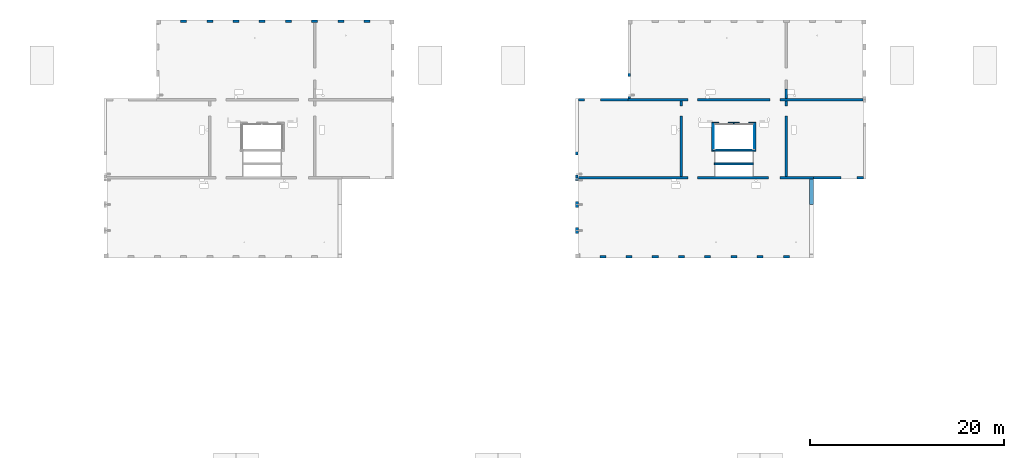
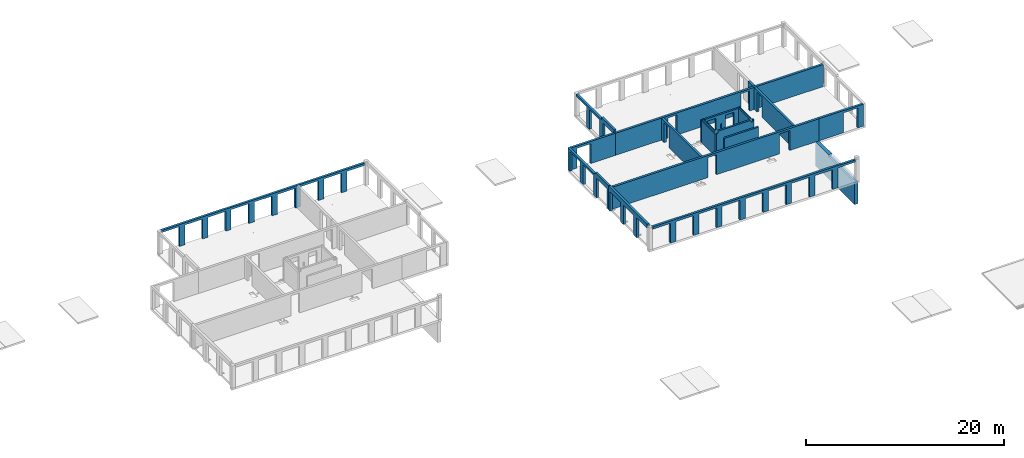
# One storey, part 9 of 14: 20 walls, 44 openings.
"""IFC2X3 building model written with IfcOpenShell, lengths in millimetres."""

from ifc_helpers import new_model, entity, si_unit, converted_unit, derived_unit, direction, frame, frame_2d, origin, origin_2d_with_axis, place, context, subcontext, project, spatial, rectangle, extrude, material, layer, layer_set, layer_usage, type_object, element, save


model = new_model("IFC2X3")

# Units and contexts
model_context = context("Model", 3, precision=0.01, world=origin(), true_north=direction((6.12303176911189e-17, 1.0)))
body_context = subcontext(model_context, "Body", "Model", "MODEL_VIEW")
ifc_project = project(units=[si_unit("LENGTHUNIT", "METRE", prefix="MILLI"), si_unit("AREAUNIT", "SQUARE_METRE"), si_unit("VOLUMEUNIT", "CUBIC_METRE"), converted_unit("PLANEANGLEUNIT", "DEGREE", entity("IfcRatioMeasure", 0.0174532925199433), si_unit("PLANEANGLEUNIT", "RADIAN"), dimensions=[0, 0, 0, 0, 0, 0, 0]), si_unit("MASSUNIT", "GRAM", prefix="KILO"), derived_unit("MASSDENSITYUNIT", [(si_unit("MASSUNIT", "GRAM", prefix="KILO"), 1), (si_unit("LENGTHUNIT", "METRE"), -3)]), si_unit("TIMEUNIT", "SECOND"), si_unit("FREQUENCYUNIT", "HERTZ"), si_unit("THERMODYNAMICTEMPERATUREUNIT", "DEGREE_CELSIUS"), derived_unit("THERMALTRANSMITTANCEUNIT", [(si_unit("MASSUNIT", "GRAM", prefix="KILO"), 1), (si_unit("THERMODYNAMICTEMPERATUREUNIT", "KELVIN"), -1), (si_unit("TIMEUNIT", "SECOND"), -3)]), derived_unit("VOLUMETRICFLOWRATEUNIT", [(si_unit("LENGTHUNIT", "METRE"), 3), (si_unit("TIMEUNIT", "SECOND"), -1)]), si_unit("ELECTRICCURRENTUNIT", "AMPERE"), si_unit("ELECTRICVOLTAGEUNIT", "VOLT"), si_unit("POWERUNIT", "WATT"), si_unit("FORCEUNIT", "NEWTON", prefix="KILO"), si_unit("ILLUMINANCEUNIT", "LUX"), si_unit("LUMINOUSFLUXUNIT", "LUMEN"), si_unit("LUMINOUSINTENSITYUNIT", "CANDELA"), derived_unit("USERDEFINED", [(si_unit("MASSUNIT", "GRAM", prefix="KILO"), -1), (si_unit("LENGTHUNIT", "METRE"), -2), (si_unit("TIMEUNIT", "SECOND"), 3), (si_unit("LUMINOUSFLUXUNIT", "LUMEN"), 1)]), derived_unit("LINEARVELOCITYUNIT", [(si_unit("LENGTHUNIT", "METRE"), 1), (si_unit("TIMEUNIT", "SECOND"), -1)]), si_unit("PRESSUREUNIT", "PASCAL"), derived_unit("USERDEFINED", [(si_unit("LENGTHUNIT", "METRE"), -2), (si_unit("MASSUNIT", "GRAM", prefix="KILO"), 1), (si_unit("TIMEUNIT", "SECOND"), -2)])], contexts=[model_context])

# Site, building, storey
site_placement = place(None, origin())
site = spatial("IfcSite", under=ifc_project, at=site_placement, Name="Default", CompositionType="ELEMENT")
building_placement = place(site_placement, origin())
building = spatial("IfcBuilding", under=site, at=building_placement, Name="niet gebruiken", CompositionType="ELEMENT")
storey_placement = place(building_placement, frame((0.0, 0.0, 15570.0)))
storey = spatial("IfcBuildingStorey", under=building, at=storey_placement, Name="05 vijfde verdieping", CompositionType="ELEMENT", Elevation=15570.0)

# Wall, openings
ifc_material_1 = material(Name="NLRS_f2_beton ihwg")
ifc_layer_1 = layer(ifc_material_1, 250.0)
ifc_layer_set_1 = layer_set([ifc_layer_1], Name="Basic Wall:NLRS_22.21_WA_beton ihwg d=250_gen")
ifc_layer_usage_1 = layer_usage(ifc_layer_set_1, "AXIS2", "NEGATIVE", 125.0)
wall_type_1 = type_object("IfcWallType", Name="Basic Wall:NLRS_22.21_WA_beton ihwg d=250_gen", PredefinedType="STANDARD", material=ifc_layer_set_1)
wall_1_placement = place(storey_placement, frame((75770.0, 36981.0, -90.0)))
wall_1 = element("IfcWallStandardCase", 1, at=wall_1_placement, inside=storey, type_object=wall_type_1, material=ifc_layer_usage_1, Name="Basic Wall:NLRS_22.21_WA_beton ihwg d=250_gen", ObjectType="Basic Wall:NLRS_22.21_WA_beton ihwg d=250_gen", context=body_context, shape_type="SweptSolid", body=[
    extrude(rectangle(XDim=24230.0, YDim=250.000000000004, at=frame_2d((12115.0, 0.0), x_axis=(-1.0, 0.0))), origin(), (0.0, 0.0, 1.0), 2719.99999999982),
])
opening_1_placement = place(wall_1_placement, origin())
element("IfcOpeningElement", 2, at=opening_1_placement, cuts=wall_1, Name="Basic Wall:NLRS_22.21_WA_beton ihwg d=250_gen", ObjectType="Opening", context=body_context, shape_type="SweptSolid", body=[
    extrude(rectangle(XDim=2470.0, YDim=1225.0, at=frame_2d((8.69704308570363e-12, 0.0), x_axis=(0.0, 1.0))), frame((20192.5000000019, -1399.0, 1235.0), z_axis=(0.0, 1.0, 0.0), x_axis=(-1.0, 0.0, 0.0)), (0.0, 0.0, 1.0), 3048.0),
])
opening_2_placement = place(wall_1_placement, origin())
element("IfcOpeningElement", 3, at=opening_2_placement, cuts=wall_1, Name="Basic Wall:NLRS_22.21_WA_beton ihwg d=250_gen", ObjectType="Opening", context=body_context, shape_type="SweptSolid", body=[
    extrude(rectangle(XDim=2470.0, YDim=1006.0, at=frame_2d((8.66862137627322e-12, 0.0), x_axis=(0.0, 1.0))), frame((11782.0, -1399.0, 1235.0), z_axis=(0.0, 1.0, 0.0), x_axis=(-1.0, 0.0, 0.0)), (0.0, 0.0, 1.0), 3048.0),
])
opening_3_placement = place(wall_1_placement, origin())
element("IfcOpeningElement", 4, at=opening_3_placement, cuts=wall_1, Name="Basic Wall:NLRS_22.21_WA_beton ihwg d=250_gen", ObjectType="Recess", context=body_context, shape_type="SweptSolid", body=[
    extrude(rectangle(XDim=55000.0, YDim=19.9999999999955, at=frame_2d((0.0, 4.33164615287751e-12), x_axis=(1.0, 0.0))), frame((10.0, -140.0, 24530.0), z_axis=(0.0, 1.0, 0.0), x_axis=(0.0, 0.0, -1.0)), (0.0, 0.0, 1.0), 124.999999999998),
])

# Wall, opening
ifc_layer_usage_2 = layer_usage(ifc_layer_set_1, "AXIS2", "NEGATIVE", 125.0)
wall_2_placement = place(storey_placement, frame((75770.0, 45031.0, -90.0)))
wall_2 = element("IfcWallStandardCase", 5, at=wall_2_placement, inside=storey, type_object=wall_type_1, material=ifc_layer_usage_2, Name="Basic Wall:NLRS_22.21_WA_beton ihwg d=250_gen", ObjectType="Basic Wall:NLRS_22.21_WA_beton ihwg d=250_gen", context=body_context, shape_type="SweptSolid", body=[
    extrude(rectangle(XDim=5130.0, YDim=249.999999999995, at=frame_2d((2565.0, 0.0), x_axis=(-1.0, 0.0))), origin(), (0.0, 0.0, 1.0), 2719.99999999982),
])
opening_4_placement = place(wall_2_placement, origin())
element("IfcOpeningElement", 6, at=opening_4_placement, cuts=wall_2, Name="Basic Wall:NLRS_22.21_WA_beton ihwg d=250_gen", ObjectType="Opening", context=body_context, shape_type="SweptSolid", body=[
    extrude(rectangle(XDim=2440.0, YDim=1640.0, at=frame_2d((-1.13686837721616e-12, 4.37694325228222e-12), x_axis=(1.0, 0.0))), frame((1460.0, -1649.0, 1220.0), z_axis=(0.0, 1.0, 0.0), x_axis=(0.0, 0.0, 1.0)), (0.0, 0.0, 1.0), 3048.0),
])

ifc_layer_usage_3 = layer_usage(ifc_layer_set_1, "AXIS2", "NEGATIVE", 125.0)
wall_3_placement = place(storey_placement, frame((86400.0, 44906.0, -90.0), z_axis=(0.0, 0.0, 1.0), x_axis=(0.0, -1.0, 0.0)))
wall_3 = element("IfcWallStandardCase", 7, at=wall_3_placement, inside=storey, type_object=wall_type_1, material=ifc_layer_usage_3, Name="Basic Wall:NLRS_22.21_WA_beton ihwg d=250_gen", ObjectType="Basic Wall:NLRS_22.21_WA_beton ihwg d=250_gen", context=body_context, shape_type="SweptSolid", body=[
    extrude(rectangle(XDim=7799.99999999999, YDim=250.000000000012, at=frame_2d((3900.0, 0.0), x_axis=(-1.0, 0.0))), origin(), (0.0, 0.0, 1.0), 2719.99999999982),
])
opening_5_placement = place(wall_3_placement, origin())
element("IfcOpeningElement", 8, at=opening_5_placement, cuts=wall_3, Name="Basic Wall:NLRS_22.21_WA_beton ihwg d=250_gen", ObjectType="Opening", context=body_context, shape_type="SweptSolid", body=[
    extrude(rectangle(XDim=2470.0, YDim=1006.0, at=origin_2d_with_axis()), frame((1027.0, -1649.0, 1235.0), z_axis=(0.0, 1.0, 0.0), x_axis=(0.0, 0.0, 1.0)), (0.0, 0.0, 1.0), 3048.0),
])

ifc_layer_usage_4 = layer_usage(ifc_layer_set_1, "AXIS2", "NEGATIVE", 125.0)
wall_4_placement = place(storey_placement, frame((97200.0, 44906.0, -90.0), z_axis=(0.0, 0.0, 1.0), x_axis=(0.0, -1.0, 0.0)))
wall_4 = element("IfcWallStandardCase", 9, at=wall_4_placement, inside=storey, type_object=wall_type_1, material=ifc_layer_usage_4, Name="Basic Wall:NLRS_22.21_WA_beton ihwg d=250_gen", ObjectType="Basic Wall:NLRS_22.21_WA_beton ihwg d=250_gen", context=body_context, shape_type="SweptSolid", body=[
    extrude(rectangle(XDim=7799.99999999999, YDim=250.000000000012, at=frame_2d((3900.0, 0.0), x_axis=(-1.0, 0.0))), origin(), (0.0, 0.0, 1.0), 2719.99999999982),
])
opening_6_placement = place(wall_4_placement, origin())
element("IfcOpeningElement", 10, at=opening_6_placement, cuts=wall_4, Name="Basic Wall:NLRS_22.21_WA_beton ihwg d=250_gen", ObjectType="Opening", context=body_context, shape_type="SweptSolid", body=[
    extrude(rectangle(XDim=2470.0, YDim=1006.0, at=origin_2d_with_axis()), frame((1027.0, -1649.0, 1235.0), z_axis=(0.0, 1.0, 0.0), x_axis=(0.0, 0.0, 1.0)), (0.0, 0.0, 1.0), 3048.0),
])

# Wall, openings
ifc_layer_usage_5 = layer_usage(ifc_layer_set_1, "AXIS2", "NEGATIVE", 125.0)
wall_5_placement = place(storey_placement, frame((80900.0, 45031.0, -90.0)))
wall_5 = element("IfcWallStandardCase", 11, at=wall_5_placement, inside=storey, type_object=wall_type_1, material=ifc_layer_usage_5, Name="Basic Wall:NLRS_22.21_WA_beton ihwg d=250_gen", ObjectType="Basic Wall:NLRS_22.21_WA_beton ihwg d=250_gen", context=body_context, shape_type="SweptSolid", body=[
    extrude(rectangle(XDim=24230.0000000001, YDim=249.999999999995, at=frame_2d((12115.0000000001, 0.0), x_axis=(-1.0, 0.0))), origin(), (0.0, 0.0, 1.0), 2719.99999999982),
])
opening_7_placement = place(wall_5_placement, origin())
element("IfcOpeningElement", 12, at=opening_7_placement, cuts=wall_5, Name="Basic Wall:NLRS_22.21_WA_beton ihwg d=250_gen", ObjectType="Opening", context=body_context, shape_type="SweptSolid", body=[
    extrude(rectangle(XDim=2470.0, YDim=1006.0, at=frame_2d((0.0, -8.66862137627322e-12), x_axis=(1.0, 0.0))), frame((15148.0, -1649.0, 1235.0), z_axis=(0.0, 1.0, 0.0), x_axis=(0.0, 0.0, 1.0)), (0.0, 0.0, 1.0), 3048.0),
])
opening_8_placement = place(wall_5_placement, origin())
element("IfcOpeningElement", 13, at=opening_8_placement, cuts=wall_5, Name="Basic Wall:NLRS_22.21_WA_beton ihwg d=250_gen", ObjectType="Opening", context=body_context, shape_type="SweptSolid", body=[
    extrude(rectangle(XDim=2470.0, YDim=1006.0, at=frame_2d((0.0, -8.66862137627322e-12), x_axis=(1.0, 0.0))), frame((6652.0, -1649.0, 1235.0), z_axis=(0.0, 1.0, 0.0), x_axis=(0.0, 0.0, 1.0)), (0.0, 0.0, 1.0), 3048.0),
])

# Wall, opening
ifc_layer_usage_6 = layer_usage(ifc_layer_set_1, "AXIS2", "NEGATIVE", 125.0)
wall_6_placement = place(storey_placement, frame((100000.0, 36981.0, -90.0)))
wall_6 = element("IfcWallStandardCase", 14, at=wall_6_placement, inside=storey, type_object=wall_type_1, material=ifc_layer_usage_6, Name="Basic Wall:NLRS_22.21_WA_beton ihwg d=250_gen", ObjectType="Basic Wall:NLRS_22.21_WA_beton ihwg d=250_gen", context=body_context, shape_type="SweptSolid", body=[
    extrude(rectangle(XDim=5149.99999999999, YDim=250.000000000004, at=frame_2d((2575.0, 0.0), x_axis=(-1.0, 0.0))), origin(), (0.0, 0.0, 1.0), 2719.99999999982),
])
opening_9_placement = place(wall_6_placement, origin())
element("IfcOpeningElement", 15, at=opening_9_placement, cuts=wall_6, Name="Basic Wall:NLRS_22.21_WA_beton ihwg d=250_gen", ObjectType="Opening", context=body_context, shape_type="SweptSolid", body=[
    extrude(rectangle(XDim=2440.0, YDim=1639.99999999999, at=frame_2d((-8.69704308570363e-12, -1.13686837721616e-12), x_axis=(0.0, 1.0))), frame((3670.0, -1399.0, 1220.0), z_axis=(0.0, 1.0, 0.0), x_axis=(-1.0, 0.0, 0.0)), (0.0, 0.0, 1.0), 3048.0),
])

# Wall
ifc_layer_usage_7 = layer_usage(ifc_layer_set_1, "AXIS2", "NEGATIVE", 125.0)
wall_7_placement = place(storey_placement, frame((97200.0, 46156.0, -90.0), z_axis=(0.0, 0.0, 1.0), x_axis=(0.0, -1.0, 0.0)))
element("IfcWallStandardCase", 16, at=wall_7_placement, inside=storey, type_object=wall_type_1, material=ifc_layer_usage_7, Name="Basic Wall:NLRS_22.21_WA_beton ihwg d=250_gen", ObjectType="Basic Wall:NLRS_22.21_WA_beton ihwg d=250_gen", context=body_context, shape_type="SweptSolid", body=[
    extrude(rectangle(XDim=999.999999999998, YDim=250.000000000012, at=frame_2d((499.999999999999, 1.10134124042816e-12), x_axis=(-1.0, 0.0))), origin(), (0.0, 0.0, 1.0), 2719.99999999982),
])

# Wall, openings
ifc_material_2 = material(Name="NLRS_f2_beton prefab")
ifc_layer_2 = layer(ifc_material_2, 250.0)
ifc_layer_set_2 = layer_set([ifc_layer_2], Name="Basic Wall:NLRS_21.21_WA_beton prefab d=250_gen")
ifc_layer_usage_8 = layer_usage(ifc_layer_set_2, "AXIS2", "NEGATIVE", 125.0)
wall_type_2 = type_object("IfcWallType", Name="Basic Wall:NLRS_21.21_WA_beton prefab d=250_gen", PredefinedType="STANDARD", material=ifc_layer_set_2)
wall_8_placement = place(storey_placement, frame((75625.0, 45156.0, -70.0), z_axis=(0.0, 0.0, 1.0), x_axis=(0.0, -1.0, 0.0)))
wall_8 = element("IfcWallStandardCase", 17, at=wall_8_placement, inside=storey, type_object=wall_type_2, material=ifc_layer_usage_8, Name="Basic Wall:NLRS_21.21_WA_beton prefab d=250_gen", ObjectType="Basic Wall:NLRS_21.21_WA_beton prefab d=250_gen", context=body_context, shape_type="SweptSolid", body=[
    extrude(rectangle(XDim=8189.99999999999, YDim=249.999999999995, at=frame_2d((4095.0, 0.0), x_axis=(-1.0, 0.0))), origin(), (0.0, 0.0, 1.0), 2949.99999999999),
])
opening_10_placement = place(wall_8_placement, origin())
element("IfcOpeningElement", 18, at=opening_10_placement, cuts=wall_8, Name="Basic Wall:NLRS_21.21_WA_beton prefab d=250_gen", ObjectType="Opening", context=body_context, shape_type="SweptSolid", body=[
    extrude(rectangle(XDim=2420.0, YDim=2080.0, at=frame_2d((0.0, 1.02318153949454e-12), x_axis=(0.0, 1.0))), frame((1450.0, -1399.0, 1210.0), z_axis=(0.0, 1.0, 0.0), x_axis=(-1.0, 0.0, 0.0)), (0.0, 0.0, 1.0), 3048.0),
])
opening_11_placement = place(wall_8_placement, origin())
element("IfcOpeningElement", 19, at=opening_11_placement, cuts=wall_8, Name="Basic Wall:NLRS_21.21_WA_beton prefab d=250_gen", ObjectType="Opening", context=body_context, shape_type="SweptSolid", body=[
    extrude(rectangle(XDim=2420.0, YDim=2080.0, at=frame_2d((0.0, -1.02318153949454e-12), x_axis=(0.0, 1.0))), frame((4150.0, -1399.0, 1210.0), z_axis=(0.0, 1.0, 0.0), x_axis=(-1.0, 0.0, 0.0)), (0.0, 0.0, 1.0), 3048.0),
])
opening_12_placement = place(wall_8_placement, origin())
element("IfcOpeningElement", 20, at=opening_12_placement, cuts=wall_8, Name="Basic Wall:NLRS_21.21_WA_beton prefab d=250_gen", ObjectType="Opening", context=body_context, shape_type="SweptSolid", body=[
    extrude(rectangle(XDim=2420.0, YDim=2080.0, at=frame_2d((0.0, 1.02318153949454e-12), x_axis=(0.0, 1.0))), frame((6850.0, -1399.0, 1210.0), z_axis=(0.0, 1.0, 0.0), x_axis=(-1.0, 0.0, 0.0)), (0.0, 0.0, 1.0), 3048.0),
])
opening_13_placement = place(wall_8_placement, origin())
element("IfcOpeningElement", 21, at=opening_13_placement, cuts=wall_8, Name="Basic Wall:NLRS_21.21_WA_beton prefab d=250_gen", ObjectType="Opening", context=body_context, shape_type="SweptSolid", body=[
    extrude(rectangle(XDim=250.000000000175, YDim=5499.99999999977, at=frame_2d((0.0, 1.08002495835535e-12), x_axis=(0.0, 1.0))), frame((2750.0, 125.0, 2825.0), z_axis=(0.0, -1.0, 0.0), x_axis=(-1.0, 0.0, 0.0)), (0.0, 0.0, 1.0), 250.0),
])

ifc_layer_usage_9 = layer_usage(ifc_layer_set_2, "AXIS2", "NEGATIVE", 125.0)
wall_9_placement = place(storey_placement, frame((81025.0, 52846.0, -70.0), z_axis=(0.0, 0.0, 1.0), x_axis=(0.0, -1.0, 0.0)))
wall_9 = element("IfcWallStandardCase", 22, at=wall_9_placement, inside=storey, type_object=wall_type_2, material=ifc_layer_usage_9, Name="Basic Wall:NLRS_21.21_WA_beton prefab d=250_gen", ObjectType="Basic Wall:NLRS_21.21_WA_beton prefab d=250_gen", context=body_context, shape_type="SweptSolid", body=[
    extrude(rectangle(XDim=7670.00000000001, YDim=250.000000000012, at=frame_2d((3835.0, 0.0), x_axis=(-1.0, 0.0))), origin(), (0.0, 0.0, 1.0), 2949.99999999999),
])
opening_14_placement = place(wall_9_placement, origin())
element("IfcOpeningElement", 23, at=opening_14_placement, cuts=wall_9, Name="Basic Wall:NLRS_21.21_WA_beton prefab d=250_gen", ObjectType="Opening", context=body_context, shape_type="SweptSolid", body=[
    extrude(rectangle(XDim=2420.0, YDim=2080.0, at=frame_2d((0.0, 1.02318153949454e-12), x_axis=(0.0, 1.0))), frame((1040.0, -1399.0, 1210.0), z_axis=(0.0, 1.0, 0.0), x_axis=(-1.0, 0.0, 0.0)), (0.0, 0.0, 1.0), 3048.0),
])
opening_15_placement = place(wall_9_placement, origin())
element("IfcOpeningElement", 24, at=opening_15_placement, cuts=wall_9, Name="Basic Wall:NLRS_21.21_WA_beton prefab d=250_gen", ObjectType="Opening", context=body_context, shape_type="SweptSolid", body=[
    extrude(rectangle(XDim=2420.0, YDim=2080.0, at=frame_2d((0.0, -1.02318153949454e-12), x_axis=(0.0, 1.0))), frame((3740.0, -1399.0, 1210.0), z_axis=(0.0, 1.0, 0.0), x_axis=(-1.0, 0.0, 0.0)), (0.0, 0.0, 1.0), 3048.0),
])
opening_16_placement = place(wall_9_placement, origin())
element("IfcOpeningElement", 25, at=opening_16_placement, cuts=wall_9, Name="Basic Wall:NLRS_21.21_WA_beton prefab d=250_gen", ObjectType="Opening", context=body_context, shape_type="SweptSolid", body=[
    extrude(rectangle(XDim=2420.0, YDim=2080.0, at=frame_2d((0.0, 1.02318153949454e-12), x_axis=(0.0, 1.0))), frame((6440.0, -1399.0, 1210.0), z_axis=(0.0, 1.0, 0.0), x_axis=(-1.0, 0.0, 0.0)), (0.0, 0.0, 1.0), 3048.0),
])
opening_17_placement = place(wall_9_placement, origin())
element("IfcOpeningElement", 26, at=opening_17_placement, cuts=wall_9, Name="Basic Wall:NLRS_21.21_WA_beton prefab d=250_gen", ObjectType="Opening", context=body_context, shape_type="SweptSolid", body=[
    extrude(rectangle(XDim=250.000000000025, YDim=5089.99999999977, at=frame_2d((4.32009983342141e-12, 0.0), x_axis=(0.0, 1.0))), frame((2545.0, 125.0, 2825.0), z_axis=(0.0, -1.0, 0.0), x_axis=(-1.0, 0.0, 0.0)), (0.0, 0.0, 1.0), 250.0),
])

# Wall
ifc_layer_3 = layer(ifc_material_2, 200.0)
ifc_layer_set_3 = layer_set([ifc_layer_3], Name="Basic Wall:NLRS_21.21_WA_beton prefab d=200_gen")
ifc_layer_usage_10 = layer_usage(ifc_layer_set_3, "AXIS2", "NEGATIVE", 100.0)
wall_type_3 = type_object("IfcWallType", Name="Basic Wall:NLRS_21.21_WA_beton prefab d=200_gen", PredefinedType="STANDARD", material=ifc_layer_set_3)
wall_10_placement = place(storey_placement, frame((89800.0, 38426.0, -70.0)))
element("IfcWallStandardCase", 27, at=wall_10_placement, inside=storey, type_object=wall_type_3, material=ifc_layer_usage_10, Name="Basic Wall:NLRS_21.21_WA_beton prefab d=200_gen", ObjectType="Basic Wall:NLRS_21.21_WA_beton prefab d=200_gen", context=body_context, shape_type="SweptSolid", body=[
    extrude(rectangle(XDim=3999.99999999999, YDim=199.999999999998, at=frame_2d((2000.0, 0.0), x_axis=(-1.0, 0.0))), origin(), (0.0, 0.0, 1.0), 2950.00000000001),
])

# Wall, openings
ifc_layer_4 = layer(ifc_material_2, 200.0)
ifc_layer_set_4 = layer_set([ifc_layer_4], Name="Basic Wall:NLRS_22.21_WA_beton prefab d=200_gen")
ifc_layer_usage_11 = layer_usage(ifc_layer_set_4, "AXIS2", "NEGATIVE", 100.0)
wall_type_4 = type_object("IfcWallType", Name="Basic Wall:NLRS_22.21_WA_beton prefab d=200_gen", PredefinedType="STANDARD", material=ifc_layer_set_4)
wall_11_placement = place(storey_placement, frame((89525.0, 42596.0, -70.0)))
wall_11 = element("IfcWallStandardCase", 28, at=wall_11_placement, inside=storey, type_object=wall_type_4, material=ifc_layer_usage_11, Name="Basic Wall:NLRS_22.21_WA_beton prefab d=200_gen", ObjectType="Basic Wall:NLRS_22.21_WA_beton prefab d=200_gen", context=body_context, shape_type="SweptSolid", body=[
    extrude(rectangle(XDim=4550.00000000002, YDim=200.000000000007, at=frame_2d((2275.00000000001, 7.8159700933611e-13), x_axis=(-1.0, 0.0))), origin(), (0.0, 0.0, 1.0), 2699.99999999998),
])
opening_18_placement = place(wall_11_placement, origin())
element("IfcOpeningElement", 29, at=opening_18_placement, cuts=wall_11, Name="Basic Wall:NLRS_22.21_WA_beton prefab d=200_gen", ObjectType="Opening", context=body_context, shape_type="SweptSolid", body=[
    extrude(rectangle(XDim=2430.0, YDim=980.000000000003, at=frame_2d((0.0, -8.66862137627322e-12), x_axis=(1.0, 0.0))), frame((1219.99984910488, -1624.0, 1195.0), z_axis=(0.0, 1.0, 0.0), x_axis=(0.0, 0.0, 1.0)), (0.0, 0.0, 1.0), 3048.0),
])
opening_19_placement = place(wall_11_placement, origin())
element("IfcOpeningElement", 30, at=opening_19_placement, cuts=wall_11, Name="Basic Wall:NLRS_22.21_WA_beton prefab d=200_gen", ObjectType="Opening", context=body_context, shape_type="SweptSolid", body=[
    extrude(rectangle(XDim=2430.0, YDim=980.000000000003, at=frame_2d((0.0, 8.66862137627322e-12), x_axis=(1.0, 0.0))), frame((3329.99984910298, -1624.0, 1195.0), z_axis=(0.0, 1.0, 0.0), x_axis=(0.0, 0.0, 1.0)), (0.0, 0.0, 1.0), 3048.0),
])
opening_20_placement = place(wall_11_placement, origin())
element("IfcOpeningElement", 31, at=opening_20_placement, cuts=wall_11, Name="Basic Wall:NLRS_22.21_WA_beton prefab d=200_gen", ObjectType="Opening", context=body_context, shape_type="SweptSolid", body=[
    extrude(rectangle(XDim=505.000000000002, YDim=135.000000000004, at=frame_2d((0.0, -8.66151594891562e-12), x_axis=(1.0, 0.0))), frame((2275.0, -1624.0, 1272.49999999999), z_axis=(0.0, 1.0, 0.0), x_axis=(0.0, 0.0, 1.0)), (0.0, 0.0, 1.0), 3048.0),
])

# Wall
ifc_layer_usage_12 = layer_usage(ifc_layer_set_4, "AXIS2", "NEGATIVE", 100.0)
wall_12_placement = place(storey_placement, frame((89625.0, 42496.0, -70.0), z_axis=(0.0, 0.0, 1.0), x_axis=(0.0, -1.0, 0.0)))
element("IfcWallStandardCase", 32, at=wall_12_placement, inside=storey, type_object=wall_type_4, material=ifc_layer_usage_12, Name="Basic Wall:NLRS_22.21_WA_beton prefab d=200_gen", ObjectType="Basic Wall:NLRS_22.21_WA_beton prefab d=200_gen", context=body_context, shape_type="SweptSolid", body=[
    extrude(rectangle(XDim=2749.99999999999, YDim=199.999999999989, at=frame_2d((1375.0, 0.0), x_axis=(-1.0, 0.0))), origin(), (0.0, 0.0, 1.0), 2699.99999999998),
])

# Wall, openings
ifc_layer_usage_13 = layer_usage(ifc_layer_set_4, "AXIS2", "NEGATIVE", 100.0)
wall_13_placement = place(storey_placement, frame((94075.0, 39846.0, -70.0), z_axis=(0.0, 0.0, 1.0), x_axis=(-1.0, 0.0, 0.0)))
wall_13 = element("IfcWallStandardCase", 33, at=wall_13_placement, inside=storey, type_object=wall_type_4, material=ifc_layer_usage_13, Name="Basic Wall:NLRS_22.21_WA_beton prefab d=200_gen", ObjectType="Basic Wall:NLRS_22.21_WA_beton prefab d=200_gen", context=body_context, shape_type="SweptSolid", body=[
    extrude(rectangle(XDim=4350.00000000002, YDim=200.000000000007, at=frame_2d((2175.00000000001, 0.0), x_axis=(-1.0, 0.0))), origin(), (0.0, 0.0, 1.0), 2949.99999999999),
])
opening_21_placement = place(wall_13_placement, origin())
element("IfcOpeningElement", 34, at=opening_21_placement, cuts=wall_13, Name="Basic Wall:NLRS_22.21_WA_beton prefab d=200_gen", ObjectType="Opening", context=body_context, shape_type="SweptSolid", body=[
    extrude(rectangle(XDim=250.000000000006, YDim=274.999967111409, at=frame_2d((1.08002495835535e-12, -8.65441052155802e-12), x_axis=(1.0, 0.0))), frame((4312.5000164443, 100.0, 2825.0), z_axis=(0.0, -1.0, 0.0), x_axis=(0.0, 0.0, 1.0)), (0.0, 0.0, 1.0), 200.0),
])
opening_22_placement = place(wall_13_placement, origin())
element("IfcOpeningElement", 35, at=opening_22_placement, cuts=wall_13, Name="Basic Wall:NLRS_22.21_WA_beton prefab d=200_gen", ObjectType="Opening", context=body_context, shape_type="SweptSolid", body=[
    extrude(rectangle(XDim=250.000000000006, YDim=275.000032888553, at=frame_2d((0.0, 1.08002495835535e-12), x_axis=(0.0, 1.0))), frame((237.500016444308, 100.0, 2825.0), z_axis=(0.0, -1.0, 0.0), x_axis=(-1.0, 0.0, 0.0)), (0.0, 0.0, 1.0), 200.0),
])

# Wall
ifc_layer_usage_14 = layer_usage(ifc_layer_set_4, "AXIS2", "NEGATIVE", 100.0)
wall_14_placement = place(storey_placement, frame((93975.0, 39946.0, -70.0), z_axis=(0.0, 0.0, 1.0), x_axis=(0.0, 1.0, 0.0)))
element("IfcWallStandardCase", 36, at=wall_14_placement, inside=storey, type_object=wall_type_4, material=ifc_layer_usage_14, Name="Basic Wall:NLRS_22.21_WA_beton prefab d=200_gen", ObjectType="Basic Wall:NLRS_22.21_WA_beton prefab d=200_gen", context=body_context, shape_type="SweptSolid", body=[
    extrude(rectangle(XDim=2549.99999999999, YDim=199.999999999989, at=frame_2d((1275.0, 0.0), x_axis=(-1.0, 0.0))), origin(), (0.0, 0.0, 1.0), 2699.99999999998),
])

# Wall, openings
ifc_layer_5 = layer(ifc_material_1, 250.0)
ifc_layer_set_5 = layer_set([ifc_layer_5], Name="Basic Wall:NLRS_21.21_WA_beton ihwg d=250_gen")
ifc_layer_usage_15 = layer_usage(ifc_layer_set_5, "AXIS2", "NEGATIVE", 125.0)
wall_type_5 = type_object("IfcWallType", Name="Basic Wall:NLRS_21.21_WA_beton ihwg d=250_gen", PredefinedType="STANDARD", material=ifc_layer_set_5)
wall_15_placement = place(storey_placement, frame((56370.0, 53131.0, -90.0), z_axis=(0.0, 0.0, 1.0), x_axis=(-1.0, 0.0, 0.0)))
wall_15 = element("IfcWallStandardCase", 37, at=wall_15_placement, inside=storey, type_object=wall_type_5, material=ifc_layer_usage_15, Name="Basic Wall:NLRS_21.21_WA_beton ihwg d=250_gen", ObjectType="Basic Wall:NLRS_21.21_WA_beton ihwg d=250_gen", context=body_context, shape_type="SweptSolid", body=[
    extrude(rectangle(XDim=23640.0000000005, YDim=249.999999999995, at=frame_2d((11820.0000000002, 5.82645043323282e-13), x_axis=(-1.0, 0.0))), origin(), (0.0, 0.0, 1.0), 2720.0),
])
opening_23_placement = place(wall_15_placement, origin())
element("IfcOpeningElement", 38, at=opening_23_placement, cuts=wall_15, Name="Basic Wall:NLRS_21.21_WA_beton ihwg d=250_gen", ObjectType="Opening", context=body_context, shape_type="SweptSolid", body=[
    extrude(rectangle(XDim=2440.0, YDim=2080.0, at=frame_2d((-2.1600499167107e-12, -1.13686837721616e-12), x_axis=(0.0, 1.0))), frame((22620.0, -1399.0, 1220.0), z_axis=(0.0, 1.0, 0.0), x_axis=(-1.0, 0.0, 0.0)), (0.0, 0.0, 1.0), 3048.0),
])
opening_24_placement = place(wall_15_placement, origin())
element("IfcOpeningElement", 39, at=opening_24_placement, cuts=wall_15, Name="Basic Wall:NLRS_21.21_WA_beton ihwg d=250_gen", ObjectType="Opening", context=body_context, shape_type="SweptSolid", body=[
    extrude(rectangle(XDim=2440.0, YDim=2080.0, at=frame_2d((2.1600499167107e-12, 1.13686837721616e-12), x_axis=(0.0, 1.0))), frame((19920.0, -1399.0, 1220.0), z_axis=(0.0, 1.0, 0.0), x_axis=(-1.0, 0.0, 0.0)), (0.0, 0.0, 1.0), 3048.0),
])
opening_25_placement = place(wall_15_placement, origin())
element("IfcOpeningElement", 40, at=opening_25_placement, cuts=wall_15, Name="Basic Wall:NLRS_21.21_WA_beton ihwg d=250_gen", ObjectType="Opening", context=body_context, shape_type="SweptSolid", body=[
    extrude(rectangle(XDim=2440.0, YDim=2079.99999999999, at=frame_2d((2.1600499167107e-12, -1.13686837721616e-12), x_axis=(0.0, 1.0))), frame((17220.0, -1399.0, 1220.0), z_axis=(0.0, 1.0, 0.0), x_axis=(-1.0, 0.0, 0.0)), (0.0, 0.0, 1.0), 3048.0),
])
opening_26_placement = place(wall_15_placement, origin())
element("IfcOpeningElement", 41, at=opening_26_placement, cuts=wall_15, Name="Basic Wall:NLRS_21.21_WA_beton ihwg d=250_gen", ObjectType="Opening", context=body_context, shape_type="SweptSolid", body=[
    extrude(rectangle(XDim=2440.0, YDim=2080.0, at=frame_2d((0.0, 1.13686837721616e-12), x_axis=(0.0, 1.0))), frame((14520.0, -1399.0, 1220.0), z_axis=(0.0, 1.0, 0.0), x_axis=(-1.0, 0.0, 0.0)), (0.0, 0.0, 1.0), 3048.0),
])
opening_27_placement = place(wall_15_placement, origin())
element("IfcOpeningElement", 42, at=opening_27_placement, cuts=wall_15, Name="Basic Wall:NLRS_21.21_WA_beton ihwg d=250_gen", ObjectType="Opening", context=body_context, shape_type="SweptSolid", body=[
    extrude(rectangle(XDim=2440.0, YDim=2080.0, at=frame_2d((0.0, -1.13686837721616e-12), x_axis=(0.0, 1.0))), frame((11820.0, -1399.0, 1220.0), z_axis=(0.0, 1.0, 0.0), x_axis=(-1.0, 0.0, 0.0)), (0.0, 0.0, 1.0), 3048.0),
])
opening_28_placement = place(wall_15_placement, origin())
element("IfcOpeningElement", 43, at=opening_28_placement, cuts=wall_15, Name="Basic Wall:NLRS_21.21_WA_beton ihwg d=250_gen", ObjectType="Opening", context=body_context, shape_type="SweptSolid", body=[
    extrude(rectangle(XDim=2440.0, YDim=2080.0, at=frame_2d((0.0, 1.13686837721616e-12), x_axis=(0.0, 1.0))), frame((9120.0, -1399.0, 1220.0), z_axis=(0.0, 1.0, 0.0), x_axis=(-1.0, 0.0, 0.0)), (0.0, 0.0, 1.0), 3048.0),
])
opening_29_placement = place(wall_15_placement, origin())
element("IfcOpeningElement", 44, at=opening_29_placement, cuts=wall_15, Name="Basic Wall:NLRS_21.21_WA_beton ihwg d=250_gen", ObjectType="Opening", context=body_context, shape_type="SweptSolid", body=[
    extrude(rectangle(XDim=2440.0, YDim=2080.0, at=frame_2d((0.0, -1.13686837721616e-12), x_axis=(0.0, 1.0))), frame((6420.0, -1399.0, 1220.0), z_axis=(0.0, 1.0, 0.0), x_axis=(-1.0, 0.0, 0.0)), (0.0, 0.0, 1.0), 3048.0),
])
opening_30_placement = place(wall_15_placement, origin())
element("IfcOpeningElement", 45, at=opening_30_placement, cuts=wall_15, Name="Basic Wall:NLRS_21.21_WA_beton ihwg d=250_gen", ObjectType="Opening", context=body_context, shape_type="SweptSolid", body=[
    extrude(rectangle(XDim=2440.0, YDim=2080.0, at=frame_2d((0.0, 1.13686837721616e-12), x_axis=(0.0, 1.0))), frame((3720.0, -1399.0, 1220.0), z_axis=(0.0, 1.0, 0.0), x_axis=(-1.0, 0.0, 0.0)), (0.0, 0.0, 1.0), 3048.0),
])
opening_31_placement = place(wall_15_placement, origin())
element("IfcOpeningElement", 46, at=opening_31_placement, cuts=wall_15, Name="Basic Wall:NLRS_21.21_WA_beton ihwg d=250_gen", ObjectType="Opening", context=body_context, shape_type="SweptSolid", body=[
    extrude(rectangle(XDim=2440.0, YDim=2080.0, at=frame_2d((-8.64019966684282e-12, -1.13686837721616e-12), x_axis=(0.0, 1.0))), frame((1020.0, -1399.0, 1220.0), z_axis=(0.0, 1.0, 0.0), x_axis=(-1.0, 0.0, 0.0)), (0.0, 0.0, 1.0), 3048.0),
])

ifc_layer_usage_16 = layer_usage(ifc_layer_set_5, "AXIS2", "NEGATIVE", 125.0)
wall_16_placement = place(storey_placement, frame((75930.0, 28881.0, -90.0)))
wall_16 = element("IfcWallStandardCase", 47, at=wall_16_placement, inside=storey, type_object=wall_type_5, material=ifc_layer_usage_16, Name="Basic Wall:NLRS_21.21_WA_beton ihwg d=250_gen", ObjectType="Basic Wall:NLRS_21.21_WA_beton ihwg d=250_gen", context=body_context, shape_type="SweptSolid", body=[
    extrude(rectangle(XDim=23640.0000000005, YDim=250.000000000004, at=frame_2d((11820.0000000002, -8.66862137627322e-13), x_axis=(-1.0, 0.0))), origin(), (0.0, 0.0, 1.0), 2720.0),
])
opening_32_placement = place(wall_16_placement, origin())
element("IfcOpeningElement", 48, at=opening_32_placement, cuts=wall_16, Name="Basic Wall:NLRS_21.21_WA_beton ihwg d=250_gen", ObjectType="Opening", context=body_context, shape_type="SweptSolid", body=[
    extrude(rectangle(XDim=2440.0, YDim=2080.0, at=frame_2d((-8.64019966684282e-12, -1.13686837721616e-12), x_axis=(0.0, 1.0))), frame((22620.0, -1399.0, 1220.0), z_axis=(0.0, 1.0, 0.0), x_axis=(-1.0, 0.0, 0.0)), (0.0, 0.0, 1.0), 3048.0),
])
opening_33_placement = place(wall_16_placement, origin())
element("IfcOpeningElement", 49, at=opening_33_placement, cuts=wall_16, Name="Basic Wall:NLRS_21.21_WA_beton ihwg d=250_gen", ObjectType="Opening", context=body_context, shape_type="SweptSolid", body=[
    extrude(rectangle(XDim=2440.0, YDim=2080.0, at=frame_2d((-8.64019966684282e-12, 1.13686837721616e-12), x_axis=(0.0, 1.0))), frame((19920.0, -1399.0, 1220.0), z_axis=(0.0, 1.0, 0.0), x_axis=(-1.0, 0.0, 0.0)), (0.0, 0.0, 1.0), 3048.0),
])
opening_34_placement = place(wall_16_placement, origin())
element("IfcOpeningElement", 50, at=opening_34_placement, cuts=wall_16, Name="Basic Wall:NLRS_21.21_WA_beton ihwg d=250_gen", ObjectType="Opening", context=body_context, shape_type="SweptSolid", body=[
    extrude(rectangle(XDim=2440.0, YDim=2080.0, at=frame_2d((-8.64019966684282e-12, -1.13686837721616e-12), x_axis=(0.0, 1.0))), frame((17220.0, -1399.0, 1220.0), z_axis=(0.0, 1.0, 0.0), x_axis=(-1.0, 0.0, 0.0)), (0.0, 0.0, 1.0), 3048.0),
])
opening_35_placement = place(wall_16_placement, origin())
element("IfcOpeningElement", 51, at=opening_35_placement, cuts=wall_16, Name="Basic Wall:NLRS_21.21_WA_beton ihwg d=250_gen", ObjectType="Opening", context=body_context, shape_type="SweptSolid", body=[
    extrude(rectangle(XDim=2440.0, YDim=2080.0, at=frame_2d((8.64019966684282e-12, 1.13686837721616e-12), x_axis=(0.0, 1.0))), frame((14520.0, -1399.0, 1220.0), z_axis=(0.0, 1.0, 0.0), x_axis=(-1.0, 0.0, 0.0)), (0.0, 0.0, 1.0), 3048.0),
])
opening_36_placement = place(wall_16_placement, origin())
element("IfcOpeningElement", 52, at=opening_36_placement, cuts=wall_16, Name="Basic Wall:NLRS_21.21_WA_beton ihwg d=250_gen", ObjectType="Opening", context=body_context, shape_type="SweptSolid", body=[
    extrude(rectangle(XDim=2440.0, YDim=2080.0, at=frame_2d((-8.64019966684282e-12, -1.13686837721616e-12), x_axis=(0.0, 1.0))), frame((11820.0, -1399.0, 1220.0), z_axis=(0.0, 1.0, 0.0), x_axis=(-1.0, 0.0, 0.0)), (0.0, 0.0, 1.0), 3048.0),
])
opening_37_placement = place(wall_16_placement, origin())
element("IfcOpeningElement", 53, at=opening_37_placement, cuts=wall_16, Name="Basic Wall:NLRS_21.21_WA_beton ihwg d=250_gen", ObjectType="Opening", context=body_context, shape_type="SweptSolid", body=[
    extrude(rectangle(XDim=2440.0, YDim=2080.0, at=frame_2d((-8.64019966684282e-12, 1.13686837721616e-12), x_axis=(0.0, 1.0))), frame((9120.0, -1399.0, 1220.0), z_axis=(0.0, 1.0, 0.0), x_axis=(-1.0, 0.0, 0.0)), (0.0, 0.0, 1.0), 3048.0),
])
opening_38_placement = place(wall_16_placement, origin())
element("IfcOpeningElement", 54, at=opening_38_placement, cuts=wall_16, Name="Basic Wall:NLRS_21.21_WA_beton ihwg d=250_gen", ObjectType="Opening", context=body_context, shape_type="SweptSolid", body=[
    extrude(rectangle(XDim=2440.0, YDim=2080.0, at=frame_2d((8.64019966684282e-12, -1.13686837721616e-12), x_axis=(0.0, 1.0))), frame((6420.0, -1399.0, 1220.0), z_axis=(0.0, 1.0, 0.0), x_axis=(-1.0, 0.0, 0.0)), (0.0, 0.0, 1.0), 3048.0),
])
opening_39_placement = place(wall_16_placement, origin())
element("IfcOpeningElement", 55, at=opening_39_placement, cuts=wall_16, Name="Basic Wall:NLRS_21.21_WA_beton ihwg d=250_gen", ObjectType="Opening", context=body_context, shape_type="SweptSolid", body=[
    extrude(rectangle(XDim=2440.0, YDim=2080.0, at=frame_2d((8.64019966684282e-12, 1.13686837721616e-12), x_axis=(0.0, 1.0))), frame((3720.0, -1399.0, 1220.0), z_axis=(0.0, 1.0, 0.0), x_axis=(-1.0, 0.0, 0.0)), (0.0, 0.0, 1.0), 3048.0),
])
opening_40_placement = place(wall_16_placement, origin())
element("IfcOpeningElement", 56, at=opening_40_placement, cuts=wall_16, Name="Basic Wall:NLRS_21.21_WA_beton ihwg d=250_gen", ObjectType="Opening", context=body_context, shape_type="SweptSolid", body=[
    extrude(rectangle(XDim=2440.0, YDim=2080.0, at=frame_2d((0.0, -1.13686837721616e-12), x_axis=(0.0, 1.0))), frame((1020.0, -1399.0, 1220.0), z_axis=(0.0, 1.0, 0.0), x_axis=(-1.0, 0.0, 0.0)), (0.0, 0.0, 1.0), 3048.0),
])

ifc_layer_6 = layer(ifc_material_2, 270.0)
ifc_layer_set_6 = layer_set([ifc_layer_6], Name="Basic Wall:NLRS_21.21_WA_beton prefab d=270_gen")
ifc_layer_usage_17 = layer_usage(ifc_layer_set_6, "AXIS2", "NEGATIVE", 135.0)
wall_type_6 = type_object("IfcWallType", Name="Basic Wall:NLRS_21.21_WA_beton prefab d=270_gen", PredefinedType="STANDARD", material=ifc_layer_set_6)
wall_17_placement = place(storey_placement, frame((75635.0, 36946.0, -70.0), z_axis=(0.0, 0.0, 1.0), x_axis=(0.0, -1.0, 0.0)))
wall_17 = element("IfcWallStandardCase", 57, at=wall_17_placement, inside=storey, type_object=wall_type_6, material=ifc_layer_usage_17, Name="Basic Wall:NLRS_21.21_WA_beton prefab d=270_gen", ObjectType="Basic Wall:NLRS_21.21_WA_beton prefab d=270_gen", context=body_context, shape_type="SweptSolid", body=[
    extrude(rectangle(XDim=7779.99999999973, YDim=270.000000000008, at=frame_2d((3889.99999999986, 0.0), x_axis=(-1.0, 0.0))), origin(), (0.0, 0.0, 1.0), 2949.99999999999),
])
opening_41_placement = place(wall_17_placement, origin())
element("IfcOpeningElement", 58, at=opening_41_placement, cuts=wall_17, Name="Basic Wall:NLRS_21.21_WA_beton prefab d=270_gen", ObjectType="Opening", context=body_context, shape_type="SweptSolid", body=[
    extrude(rectangle(XDim=2420.0, YDim=2080.0, at=frame_2d((-2.1600499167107e-12, 1.02318153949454e-12), x_axis=(0.0, 1.0))), frame((1340.0, -1389.0, 1210.0), z_axis=(0.0, 1.0, 0.0), x_axis=(-1.0, 0.0, 0.0)), (0.0, 0.0, 1.0), 3048.0),
])
opening_42_placement = place(wall_17_placement, origin())
element("IfcOpeningElement", 59, at=opening_42_placement, cuts=wall_17, Name="Basic Wall:NLRS_21.21_WA_beton prefab d=270_gen", ObjectType="Opening", context=body_context, shape_type="SweptSolid", body=[
    extrude(rectangle(XDim=2420.0, YDim=2080.0, at=frame_2d((2.1600499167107e-12, -1.02318153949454e-12), x_axis=(0.0, 1.0))), frame((4040.0, -1389.0, 1210.0), z_axis=(0.0, 1.0, 0.0), x_axis=(-1.0, 0.0, 0.0)), (0.0, 0.0, 1.0), 3048.0),
])
opening_43_placement = place(wall_17_placement, origin())
element("IfcOpeningElement", 60, at=opening_43_placement, cuts=wall_17, Name="Basic Wall:NLRS_21.21_WA_beton prefab d=270_gen", ObjectType="Opening", context=body_context, shape_type="SweptSolid", body=[
    extrude(rectangle(XDim=2420.0, YDim=2080.0, at=frame_2d((2.1600499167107e-12, 1.02318153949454e-12), x_axis=(0.0, 1.0))), frame((6740.0, -1389.0, 1210.0), z_axis=(0.0, 1.0, 0.0), x_axis=(-1.0, 0.0, 0.0)), (0.0, 0.0, 1.0), 3048.0),
])

# Wall, opening
ifc_layer_7 = layer(ifc_material_1, 410.0)
ifc_layer_set_7 = layer_set([ifc_layer_7], Name="Basic Wall:NLRS_21.21_WA_beton ihwg d=410_gen")
ifc_layer_usage_18 = layer_usage(ifc_layer_set_7, "AXIS2", "NEGATIVE", 205.0)
wall_type_7 = type_object("IfcWallType", Name="Basic Wall:NLRS_21.21_WA_beton ihwg d=410_gen", PredefinedType="STANDARD", material=ifc_layer_set_7)
wall_18_placement = place(storey_placement, frame((99795.0, 29006.0, -3060.0), z_axis=(0.0, 0.0, 1.0), x_axis=(0.0, 1.0, 0.0)))
wall_18 = element("IfcWallStandardCase", 61, at=wall_18_placement, inside=storey, type_object=wall_type_7, material=ifc_layer_usage_18, Name="Basic Wall:NLRS_21.21_WA_beton ihwg d=410_gen", ObjectType="Basic Wall:NLRS_21.21_WA_beton ihwg d=410_gen", context=body_context, shape_type="SweptSolid", body=[
    extrude(rectangle(XDim=7850.00000000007, YDim=410.000000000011, at=frame_2d((3925.00000000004, 1.84741111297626e-13), x_axis=(-1.0, 0.0))), origin(), (0.0, 0.0, 1.0), 2970.0),
])
opening_44_placement = place(wall_18_placement, origin())
element("IfcOpeningElement", 62, at=opening_44_placement, cuts=wall_18, Name="Basic Wall:NLRS_21.21_WA_beton ihwg d=410_gen", ObjectType="Opening", context=body_context, shape_type="SweptSolid", body=[
    extrude(rectangle(XDim=249.999999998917, YDim=5375.00000000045, at=frame_2d((2.27373675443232e-12, 2.16715534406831e-12), x_axis=(0.0, 1.0))), frame((2562.50000000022, 205.0, 2845.0), z_axis=(0.0, -1.0, 0.0), x_axis=(-1.0, 0.0, 0.0)), (0.0, 0.0, 1.0), 410.0),
])

# Walls
ifc_layer_8 = layer(ifc_material_2, 60.0)
ifc_layer_set_8 = layer_set([ifc_layer_8], Name="Basic Wall:NLRS_22.21_WA_beton prefab d=60_gen")
ifc_layer_usage_19 = layer_usage(ifc_layer_set_8, "AXIS2", "NEGATIVE", 30.0)
wall_type_8 = type_object("IfcWallType", Name="Basic Wall:NLRS_22.21_WA_beton prefab d=60_gen", PredefinedType="STANDARD", material=ifc_layer_set_8)
wall_19_placement = place(storey_placement, frame((89695.0, 42476.0, 2630.0), z_axis=(0.0, 0.0, 1.0), x_axis=(0.0, -1.0, 0.0)))
element("IfcWallStandardCase", 63, at=wall_19_placement, inside=storey, type_object=wall_type_8, material=ifc_layer_usage_19, Name="Basic Wall:NLRS_22.21_WA_beton prefab d=60_gen", ObjectType="Basic Wall:NLRS_22.21_WA_beton prefab d=60_gen", context=body_context, shape_type="SweptSolid", body=[
    extrude(rectangle(XDim=2509.99999999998, YDim=59.9999999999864, at=frame_2d((1254.99999999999, 0.0), x_axis=(-1.0, 0.0))), origin(), (0.0, 0.0, 1.0), 250.000000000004),
])
ifc_layer_usage_20 = layer_usage(ifc_layer_set_8, "AXIS2", "POSITIVE", -30.0)
wall_20_placement = place(storey_placement, frame((93905.0, 42476.0, 2630.0), z_axis=(0.0, 0.0, 1.0), x_axis=(0.0, -1.0, 0.0)))
element("IfcWallStandardCase", 64, at=wall_20_placement, inside=storey, type_object=wall_type_8, material=ifc_layer_usage_20, Name="Basic Wall:NLRS_22.21_WA_beton prefab d=60_gen", ObjectType="Basic Wall:NLRS_22.21_WA_beton prefab d=60_gen", context=body_context, shape_type="SweptSolid", body=[
    extrude(rectangle(XDim=2509.99999999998, YDim=59.9999999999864, at=frame_2d((1254.99999999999, 0.0), x_axis=(-1.0, 0.0))), origin(), (0.0, 0.0, 1.0), 250.000000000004),
])

save(model, "model.ifc")
